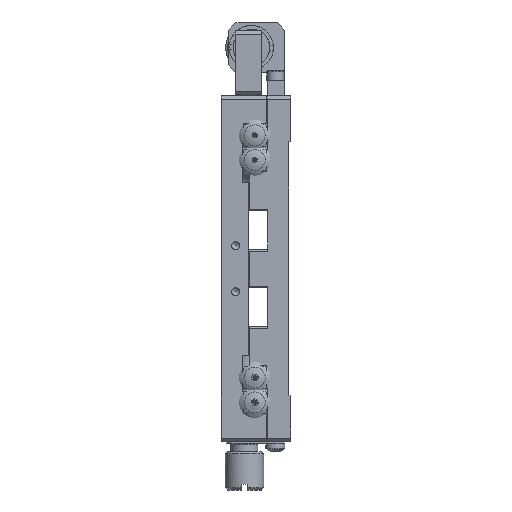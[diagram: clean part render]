
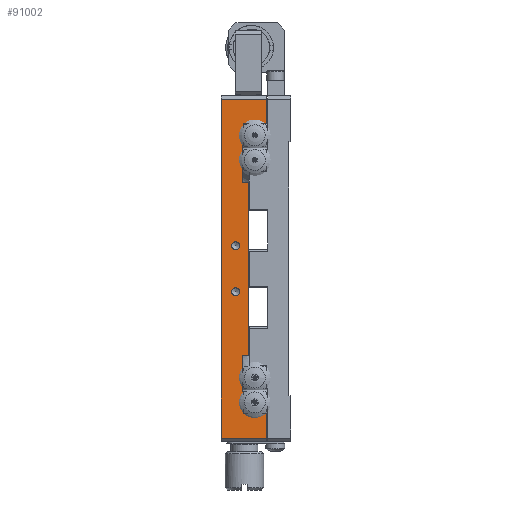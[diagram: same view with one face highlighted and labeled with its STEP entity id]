
A CAD part, left-side view. The second image highlights one B-rep face of the part: STEP entity #91002.
In plain terms, the highlighted planar face has unit normal (-1, 0, 0).
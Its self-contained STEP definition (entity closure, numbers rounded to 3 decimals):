
#173 = LINE ( 'NONE', #52357, #94241 ) ;
#571 = CARTESIAN_POINT ( 'NONE',  ( 0., 12.6, -32. ) ) ;
#580 = CARTESIAN_POINT ( 'NONE',  ( 0., 12.3, 37.7 ) ) ;
#808 = ORIENTED_EDGE ( 'NONE', *, *, #9233, .T. ) ;
#1428 = LINE ( 'NONE', #70634, #43581 ) ;
#1687 = ORIENTED_EDGE ( 'NONE', *, *, #103257, .F. ) ;
#1785 = DIRECTION ( 'NONE',  ( -1., 0., 0. ) ) ;
#2247 = DIRECTION ( 'NONE',  ( -1., 0., 0. ) ) ;
#2552 = EDGE_CURVE ( 'NONE', #40065, #96999, #100592, .T. ) ;
#2593 = CARTESIAN_POINT ( 'NONE',  ( 0., 18., -44. ) ) ;
#2878 = CARTESIAN_POINT ( 'NONE',  ( 0., 12.6, -22.5 ) ) ;
#3521 = VERTEX_POINT ( 'NONE', #63815 ) ;
#4151 = VECTOR ( 'NONE', #48637, 1000. ) ;
#4502 = DIRECTION ( 'NONE',  ( 0., 0., -1. ) ) ;
#5863 = ORIENTED_EDGE ( 'NONE', *, *, #18747, .T. ) ;
#6270 = CARTESIAN_POINT ( 'NONE',  ( 0., 12.3, -37.5 ) ) ;
#6706 = VECTOR ( 'NONE', #45195, 1000. ) ;
#7091 = ORIENTED_EDGE ( 'NONE', *, *, #111269, .F. ) ;
#7830 = EDGE_CURVE ( 'NONE', #21625, #110470, #73273, .T. ) ;
#8234 = AXIS2_PLACEMENT_3D ( 'NONE', #16823, #77543, #17377 ) ;
#9233 = EDGE_CURVE ( 'NONE', #96999, #40207, #1428, .T. ) ;
#10690 = LINE ( 'NONE', #73098, #40210 ) ;
#10825 = CARTESIAN_POINT ( 'NONE',  ( 0., 12.6, -22.5 ) ) ;
#12040 = EDGE_CURVE ( 'NONE', #40207, #17399, #10690, .T. ) ;
#13021 = LINE ( 'NONE', #107772, #47683 ) ;
#13408 = ORIENTED_EDGE ( 'NONE', *, *, #60068, .F. ) ;
#14040 = VERTEX_POINT ( 'NONE', #23517 ) ;
#15116 = LINE ( 'NONE', #73622, #54516 ) ;
#16114 = EDGE_CURVE ( 'NONE', #3521, #59859, #36303, .T. ) ;
#16524 = FACE_BOUND ( 'NONE', #63498, .T. ) ;
#16571 = ORIENTED_EDGE ( 'NONE', *, *, #2552, .T. ) ;
#16823 = CARTESIAN_POINT ( 'NONE',  ( 0., 14.3, -6. ) ) ;
#17377 = DIRECTION ( 'NONE',  ( 0., 0., 1. ) ) ;
#17399 = VERTEX_POINT ( 'NONE', #98587 ) ;
#18323 = ORIENTED_EDGE ( 'NONE', *, *, #7830, .T. ) ;
#18489 = LINE ( 'NONE', #62799, #6706 ) ;
#18747 = EDGE_CURVE ( 'NONE', #105352, #59859, #65121, .T. ) ;
#19242 = DIRECTION ( 'NONE',  ( 0., -1., 0. ) ) ;
#20901 = VERTEX_POINT ( 'NONE', #67024 ) ;
#21625 = VERTEX_POINT ( 'NONE', #66760 ) ;
#23517 = CARTESIAN_POINT ( 'NONE',  ( 0., 12.6, 22.5 ) ) ;
#23755 = CARTESIAN_POINT ( 'NONE',  ( 0., 6.3, 44. ) ) ;
#25951 = LINE ( 'NONE', #43548, #94179 ) ;
#26181 = FACE_OUTER_BOUND ( 'NONE', #64682, .T. ) ;
#30253 = VERTEX_POINT ( 'NONE', #106820 ) ;
#30589 = CARTESIAN_POINT ( 'NONE',  ( 0., 12.3, -32. ) ) ;
#31171 = CARTESIAN_POINT ( 'NONE',  ( 0., 11., 22.5 ) ) ;
#31393 = EDGE_LOOP ( 'NONE', ( #13408 ) ) ;
#34858 = ORIENTED_EDGE ( 'NONE', *, *, #53930, .F. ) ;
#36086 = DIRECTION ( 'NONE',  ( 0., 1., 0. ) ) ;
#36303 = LINE ( 'NONE', #571, #107325 ) ;
#36913 = CARTESIAN_POINT ( 'NONE',  ( 0., 14.3, -4.975 ) ) ;
#39065 = DIRECTION ( 'NONE',  ( 0., 1., 0. ) ) ;
#39670 = LINE ( 'NONE', #73707, #75118 ) ;
#40065 = VERTEX_POINT ( 'NONE', #580 ) ;
#40207 = VERTEX_POINT ( 'NONE', #23755 ) ;
#40210 = VECTOR ( 'NONE', #39065, 1000. ) ;
#40467 = DIRECTION ( 'NONE',  ( 0., -1., 0. ) ) ;
#41829 = VERTEX_POINT ( 'NONE', #2593 ) ;
#42185 = DIRECTION ( 'NONE',  ( 0., 0., 1. ) ) ;
#43548 = CARTESIAN_POINT ( 'NONE',  ( 0., 12.6, 32. ) ) ;
#43581 = VECTOR ( 'NONE', #45109, 1000. ) ;
#43769 = PLANE ( 'NONE',  #51938 ) ;
#45109 = DIRECTION ( 'NONE',  ( 0., 0., 1. ) ) ;
#45195 = DIRECTION ( 'NONE',  ( 0., -1., 0. ) ) ;
#47683 = VECTOR ( 'NONE', #49312, 1000. ) ;
#48637 = DIRECTION ( 'NONE',  ( 0., 0., 1. ) ) ;
#48850 = DIRECTION ( 'NONE',  ( 0., 0., 1. ) ) ;
#49312 = DIRECTION ( 'NONE',  ( 0., 0., 1. ) ) ;
#49328 = VECTOR ( 'NONE', #79482, 1000. ) ;
#49512 = ORIENTED_EDGE ( 'NONE', *, *, #16114, .F. ) ;
#49934 = ORIENTED_EDGE ( 'NONE', *, *, #95052, .F. ) ;
#50491 = EDGE_CURVE ( 'NONE', #41829, #21625, #59051, .T. ) ;
#50721 = VECTOR ( 'NONE', #48850, 1000. ) ;
#51268 = VECTOR ( 'NONE', #93074, 1000. ) ;
#51938 = AXIS2_PLACEMENT_3D ( 'NONE', #80636, #1785, #105590 ) ;
#52357 = CARTESIAN_POINT ( 'NONE',  ( 0., 18., -45. ) ) ;
#53090 = CARTESIAN_POINT ( 'NONE',  ( 0., 6.3, -37.5 ) ) ;
#53930 = EDGE_CURVE ( 'NONE', #62851, #20901, #91289, .T. ) ;
#53959 = LINE ( 'NONE', #10825, #49328 ) ;
#54516 = VECTOR ( 'NONE', #108214, 1000. ) ;
#55019 = CARTESIAN_POINT ( 'NONE',  ( 0., 14.3, 6. ) ) ;
#57177 = CIRCLE ( 'NONE', #8234, 1.025 ) ;
#57941 = CARTESIAN_POINT ( 'NONE',  ( 0., 6.3, -44. ) ) ;
#59051 = LINE ( 'NONE', #57941, #51268 ) ;
#59859 = VERTEX_POINT ( 'NONE', #30589 ) ;
#60068 = EDGE_CURVE ( 'NONE', #107233, #107233, #57177, .T. ) ;
#61549 = ORIENTED_EDGE ( 'NONE', *, *, #12040, .T. ) ;
#62652 = EDGE_CURVE ( 'NONE', #14040, #62851, #18489, .T. ) ;
#62799 = CARTESIAN_POINT ( 'NONE',  ( 0., 12.6, 22.5 ) ) ;
#62851 = VERTEX_POINT ( 'NONE', #68352 ) ;
#62985 = VECTOR ( 'NONE', #40467, 1000. ) ;
#63498 = EDGE_LOOP ( 'NONE', ( #49934 ) ) ;
#63815 = CARTESIAN_POINT ( 'NONE',  ( 0., 12.6, -32. ) ) ;
#64118 = ORIENTED_EDGE ( 'NONE', *, *, #107504, .F. ) ;
#64682 = EDGE_LOOP ( 'NONE', ( #64118, #68491, #98271, #16571, #808, #61549, #1687, #104019, #18323, #83571, #5863, #49512, #7091, #111595, #34858, #81510 ) ) ;
#64978 = VECTOR ( 'NONE', #36086, 1000. ) ;
#65121 = LINE ( 'NONE', #108197, #4151 ) ;
#66068 = EDGE_CURVE ( 'NONE', #110470, #105352, #79185, .T. ) ;
#66564 = CARTESIAN_POINT ( 'NONE',  ( 0., 6.3, 37.7 ) ) ;
#66760 = CARTESIAN_POINT ( 'NONE',  ( 0., 6.3, -44. ) ) ;
#67024 = CARTESIAN_POINT ( 'NONE',  ( 0., 11., -22.5 ) ) ;
#68352 = CARTESIAN_POINT ( 'NONE',  ( 0., 11., 22.5 ) ) ;
#68491 = ORIENTED_EDGE ( 'NONE', *, *, #102035, .F. ) ;
#69627 = CARTESIAN_POINT ( 'NONE',  ( 0., 12.3, 32. ) ) ;
#70634 = CARTESIAN_POINT ( 'NONE',  ( 0., 6.3, -45. ) ) ;
#72268 = AXIS2_PLACEMENT_3D ( 'NONE', #55019, #2247, #107196 ) ;
#72491 = VERTEX_POINT ( 'NONE', #2878 ) ;
#73098 = CARTESIAN_POINT ( 'NONE',  ( 0., 6.3, 44. ) ) ;
#73273 = LINE ( 'NONE', #82343, #50721 ) ;
#73622 = CARTESIAN_POINT ( 'NONE',  ( 0., 12.6, 31.5 ) ) ;
#73707 = CARTESIAN_POINT ( 'NONE',  ( 0., 11., -22.5 ) ) ;
#75118 = VECTOR ( 'NONE', #82766, 1000. ) ;
#77543 = DIRECTION ( 'NONE',  ( -1., 0., 0. ) ) ;
#78137 = DIRECTION ( 'NONE',  ( 0., 1., 0. ) ) ;
#78940 = EDGE_CURVE ( 'NONE', #95276, #40065, #13021, .T. ) ;
#79185 = LINE ( 'NONE', #53090, #64978 ) ;
#79482 = DIRECTION ( 'NONE',  ( 0., 0., -1. ) ) ;
#80341 = VECTOR ( 'NONE', #4502, 1000. ) ;
#80636 = CARTESIAN_POINT ( 'NONE',  ( 0., 6.3, -45. ) ) ;
#81510 = ORIENTED_EDGE ( 'NONE', *, *, #62652, .F. ) ;
#82343 = CARTESIAN_POINT ( 'NONE',  ( 0., 6.3, -45. ) ) ;
#82766 = DIRECTION ( 'NONE',  ( 0., 1., 0. ) ) ;
#83557 = EDGE_CURVE ( 'NONE', #20901, #72491, #39670, .T. ) ;
#83571 = ORIENTED_EDGE ( 'NONE', *, *, #66068, .T. ) ;
#91002 = ADVANCED_FACE ( 'NONE', ( #111283, #16524, #26181 ), #43769, .T. ) ;
#91289 = LINE ( 'NONE', #31171, #80341 ) ;
#93074 = DIRECTION ( 'NONE',  ( 0., -1., 0. ) ) ;
#93799 = CARTESIAN_POINT ( 'NONE',  ( 0., 6.3, 37.7 ) ) ;
#94179 = VECTOR ( 'NONE', #78137, 1000. ) ;
#94241 = VECTOR ( 'NONE', #42185, 1000. ) ;
#95052 = EDGE_CURVE ( 'NONE', #30253, #30253, #108459, .T. ) ;
#95276 = VERTEX_POINT ( 'NONE', #69627 ) ;
#96999 = VERTEX_POINT ( 'NONE', #93799 ) ;
#98271 = ORIENTED_EDGE ( 'NONE', *, *, #78940, .T. ) ;
#98587 = CARTESIAN_POINT ( 'NONE',  ( 0., 18., 44. ) ) ;
#100592 = LINE ( 'NONE', #66564, #62985 ) ;
#101818 = VERTEX_POINT ( 'NONE', #109417 ) ;
#102035 = EDGE_CURVE ( 'NONE', #95276, #101818, #25951, .T. ) ;
#103257 = EDGE_CURVE ( 'NONE', #41829, #17399, #173, .T. ) ;
#104019 = ORIENTED_EDGE ( 'NONE', *, *, #50491, .T. ) ;
#104841 = CARTESIAN_POINT ( 'NONE',  ( 0., 6.3, -37.5 ) ) ;
#105352 = VERTEX_POINT ( 'NONE', #6270 ) ;
#105590 = DIRECTION ( 'NONE',  ( 0., 0., 1. ) ) ;
#106820 = CARTESIAN_POINT ( 'NONE',  ( 0., 14.3, 7.025 ) ) ;
#107196 = DIRECTION ( 'NONE',  ( 0., 0., 1. ) ) ;
#107233 = VERTEX_POINT ( 'NONE', #36913 ) ;
#107325 = VECTOR ( 'NONE', #19242, 1000. ) ;
#107504 = EDGE_CURVE ( 'NONE', #101818, #14040, #15116, .T. ) ;
#107772 = CARTESIAN_POINT ( 'NONE',  ( 0., 12.3, 31.5 ) ) ;
#108197 = CARTESIAN_POINT ( 'NONE',  ( 0., 12.3, -31.5 ) ) ;
#108214 = DIRECTION ( 'NONE',  ( 0., 0., -1. ) ) ;
#108459 = CIRCLE ( 'NONE', #72268, 1.025 ) ;
#109417 = CARTESIAN_POINT ( 'NONE',  ( 0., 12.6, 32. ) ) ;
#110470 = VERTEX_POINT ( 'NONE', #104841 ) ;
#111269 = EDGE_CURVE ( 'NONE', #72491, #3521, #53959, .T. ) ;
#111283 = FACE_BOUND ( 'NONE', #31393, .T. ) ;
#111595 = ORIENTED_EDGE ( 'NONE', *, *, #83557, .F. ) ;
